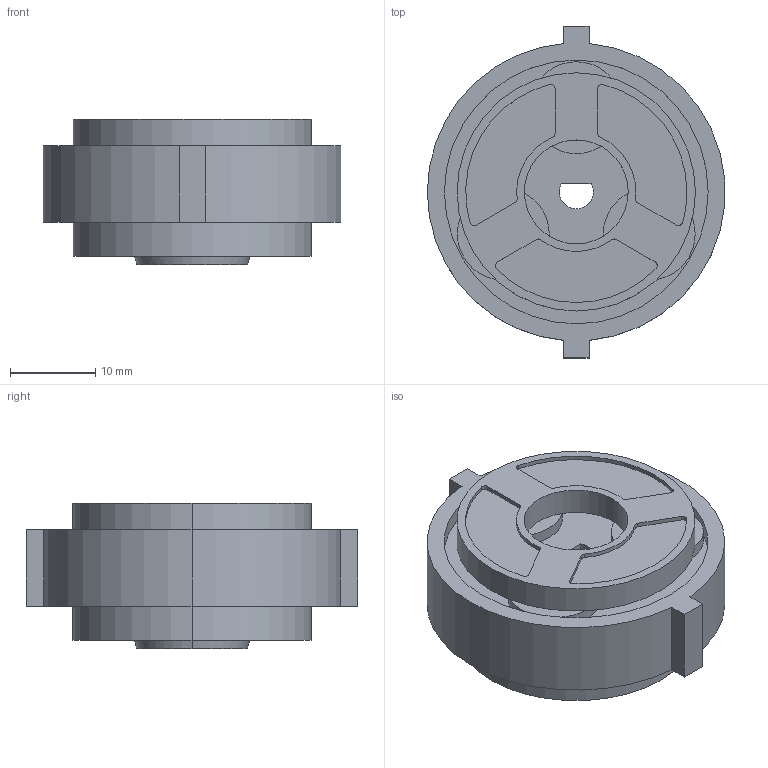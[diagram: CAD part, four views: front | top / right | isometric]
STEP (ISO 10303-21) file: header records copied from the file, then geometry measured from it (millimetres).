
FILE_DESCRIPTION (( 'STEP AP203' ), '1' );
FILE_NAME ('LGU35-4SRS.step', '2021-07-23T02:22:53', ( '' ), ( '' ), 'SwSTEP 2.0', 'SolidWorks 2021', '' );
FILE_SCHEMA (( 'CONFIG_CONTROL_DESIGN' ));
Length unit declared in the file: millimetre
Products named in the file (1): LGU35-4SRS
Bounding box: 34.93 x 39 x 17.1 mm (x, y, z)
Volume: 10569.7 mm3; surface area: 6871.1 mm2
Topology: 1 solids, 1 shells, 262 faces, 732 edges, 488 vertices
Faces by surface type: cylinder 190, plane 64, bspline 6, cone 2
Entity records: 8841 total; most frequent: CARTESIAN_POINT 1681, DIRECTION 1612, ORIENTED_EDGE 1464, EDGE_CURVE 732, AXIS2_PLACEMENT_3D 647, VERTEX_POINT 488, CIRCLE 390, LINE 318
